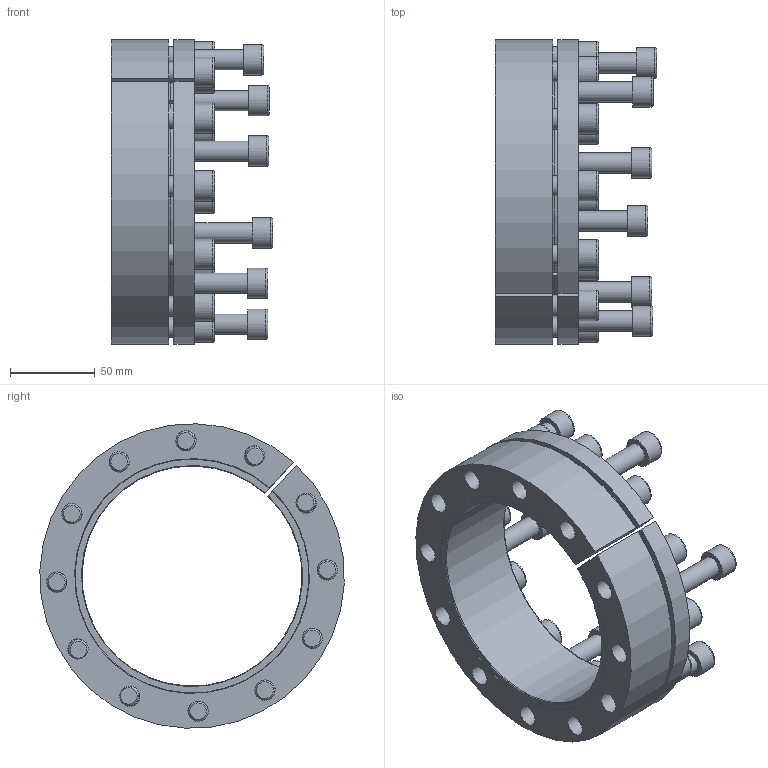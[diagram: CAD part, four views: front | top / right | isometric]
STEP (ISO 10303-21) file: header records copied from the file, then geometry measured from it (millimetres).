
FILE_DESCRIPTION((''),'2;1');
FILE_NAME('M:\Disegni 3D\CALETTATORI\RCK 13\130x180 - 06130130\Assieme.stp','2015-12-16T12:07:31',('fabietto'),(''),'Autodesk Inventor 2013','Autodesk Inventor 2013','');
FILE_SCHEMA(('AUTOMOTIVE_DESIGN { 1 0 10303 214 1 1 1 1 }'));
Length unit declared in the file: millimetre
Products named in the file (5): Assieme; Anello esterno; DIN 912 - sostituito da DIN EN ISO 4762 M12 x 35; Parte1
Assembly tree (20 placements, depth 2):
  Assieme
    Anello esterno
    DIN 912 - sostituito da DIN EN ISO 4762 M12 x 35  x12
    DIN 912 - sostituito da DIN EN ISO 4762 M12 x 35  x6
    Parte1
Bounding box: 95.33 x 179.81 x 179.86 mm (x, y, z)
Volume: 610999.9 mm3; surface area: 186752.7 mm2
Topology: 20 solids, 20 shells, 320 faces, 714 edges, 452 vertices
Faces by surface type: plane 171, cylinder 71, cone 42, torus 36
Full cylindrical faces by diameter (mm): 12 x36, 13 x12, 18 x18
Entity records: 2603 total; most frequent: DIRECTION 446, CARTESIAN_POINT 417, ORIENTED_EDGE 316, AXIS2_PLACEMENT_3D 195, EDGE_LOOP 184, EDGE_CURVE 158, VERTEX_POINT 130, FACE_BOUND 104
